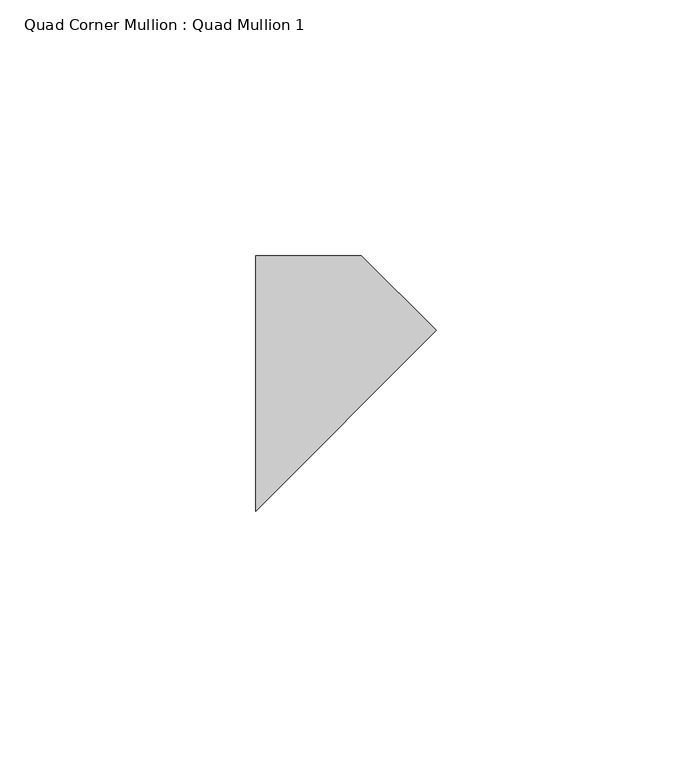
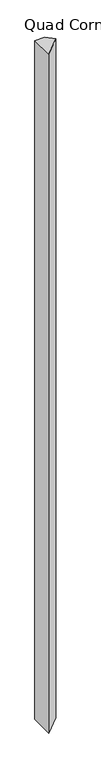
"""IFC4 building model written with IfcOpenShell, lengths in millimetres: member geometry, Quad Corner Mullion : Quad Mullion 1."""

from ifc_helpers import new_model, si_unit, frame, origin, place, context, project, spatial, polyline, outline, extrude, source, transform, mapped, element, save


def quad_corner_mullion_quad_mullion_1_e5243e43(model_context):
    return source(origin(), model_context, "Body", "SweptSolid", [
        extrude(outline(polyline([(25.0, 10.3553391), (-10.3553391, -25.0), (-10.3553391, 25.0), (10.3553391, 25.0), (25.0, 10.3553391)])), frame((0.0, 0.0, -1500.0), z_axis=(0.0, 0.0, 1.0), x_axis=(1.0, 0.0, 0.0)), (0.0, 0.0, 1.0), 1500.0),
    ])


if __name__ == "__main__":
    model = new_model("IFC4")
    model_context = context("Model", 3, world=origin())
    ifc_project = project(units=[si_unit("LENGTHUNIT", "METRE", prefix="MILLI")], contexts=[model_context])
    site = spatial("IfcSite", under=ifc_project)
    building = spatial("IfcBuilding", under=site)
    placement = place(None, origin())
    quad_corner_mullion_quad_mullion_1_shape = quad_corner_mullion_quad_mullion_1_e5243e43(model_context)
    element("IfcMember", 1, ObjectType="Quad Corner Mullion : Quad Mullion 1", at=placement, inside=building, context=model_context, shape_type="MappedRepresentation", body=[
        mapped(quad_corner_mullion_quad_mullion_1_shape, transform((0.0, 0.0, 0.0), x_axis=(1.0, 0.0, 0.0), y_axis=(0.0, 1.0, 0.0), z_axis=(0.0, 0.0, 1.0))),
    ])
    save(model, "model.ifc")
